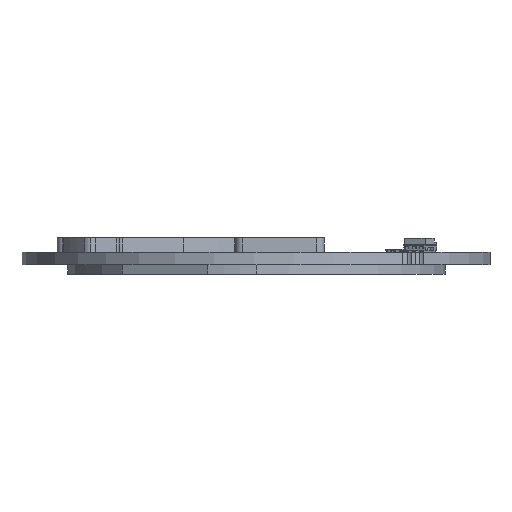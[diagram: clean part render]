
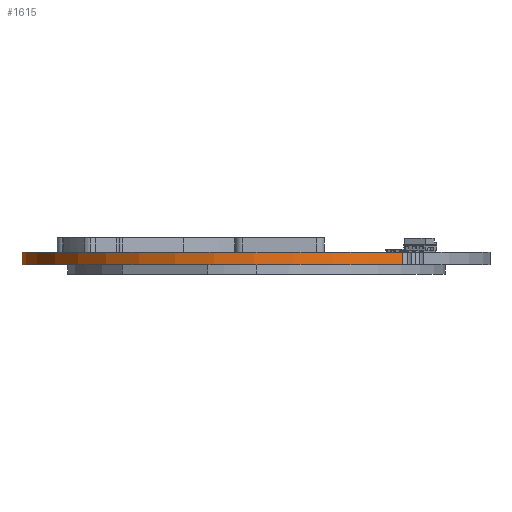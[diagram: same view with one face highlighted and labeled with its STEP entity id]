
A CAD part, left-side view. The second image highlights one B-rep face of the part: STEP entity #1615.
In plain terms, the highlighted cylindrical face has radius 31 mm (diameter 62 mm), a partial arc.
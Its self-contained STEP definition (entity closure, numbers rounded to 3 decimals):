
#1615 = ADVANCED_FACE ( 'NONE', ( #24313 ), #39784, .T. ) ;
#2086 = AXIS2_PLACEMENT_3D ( 'NONE', #21778, #22820, #28423 ) ;
#3016 = DIRECTION ( 'NONE',  ( 0., 0., 1. ) ) ;
#3789 = VERTEX_POINT ( 'NONE', #50698 ) ;
#7148 = LINE ( 'NONE', #40398, #20664 ) ;
#8273 = CARTESIAN_POINT ( 'NONE',  ( 25.999, -25.999, -1.65 ) ) ;
#9864 = EDGE_CURVE ( 'NONE', #55540, #61689, #50344, .T. ) ;
#11940 = ORIENTED_EDGE ( 'NONE', *, *, #19357, .F. ) ;
#13032 = AXIS2_PLACEMENT_3D ( 'NONE', #8273, #50217, #13499 ) ;
#13499 = DIRECTION ( 'NONE',  ( 1., 0., 0. ) ) ;
#17369 = VERTEX_POINT ( 'NONE', #49500 ) ;
#19357 = EDGE_CURVE ( 'NONE', #3789, #55540, #7148, .T. ) ;
#19841 = CIRCLE ( 'NONE', #2086, 31. ) ;
#20664 = VECTOR ( 'NONE', #3016, 1000. ) ;
#20916 = CARTESIAN_POINT ( 'NONE',  ( 1.767, -45.333, -1.65 ) ) ;
#21778 = CARTESIAN_POINT ( 'NONE',  ( 25.999, -25.999, -1.65 ) ) ;
#22820 = DIRECTION ( 'NONE',  ( 0., 0., 1. ) ) ;
#24313 = FACE_OUTER_BOUND ( 'NONE', #24518, .T. ) ;
#24518 = EDGE_LOOP ( 'NONE', ( #51205, #53804, #34497, #11940 ) ) ;
#25936 = CARTESIAN_POINT ( 'NONE',  ( 25.999, -25.999, 0. ) ) ;
#26499 = LINE ( 'NONE', #20916, #66599 ) ;
#28423 = DIRECTION ( 'NONE',  ( 1., 0., 0. ) ) ;
#31775 = DIRECTION ( 'NONE',  ( 0., 0., 1. ) ) ;
#31895 = DIRECTION ( 'NONE',  ( 0., 0., 1. ) ) ;
#34497 = ORIENTED_EDGE ( 'NONE', *, *, #9864, .F. ) ;
#39784 = CYLINDRICAL_SURFACE ( 'NONE', #13032, 31. ) ;
#40398 = CARTESIAN_POINT ( 'NONE',  ( 30.626, 4.653, -1.65 ) ) ;
#41368 = EDGE_CURVE ( 'NONE', #17369, #61689, #26499, .T. ) ;
#44268 = CARTESIAN_POINT ( 'NONE',  ( 1.767, -45.333, 0. ) ) ;
#45765 = EDGE_CURVE ( 'NONE', #3789, #17369, #19841, .T. ) ;
#46466 = CARTESIAN_POINT ( 'NONE',  ( 30.626, 4.653, 0. ) ) ;
#49500 = CARTESIAN_POINT ( 'NONE',  ( 1.767, -45.333, -1.65 ) ) ;
#50217 = DIRECTION ( 'NONE',  ( 0., 0., -1. ) ) ;
#50344 = CIRCLE ( 'NONE', #65940, 31. ) ;
#50698 = CARTESIAN_POINT ( 'NONE',  ( 30.626, 4.653, -1.65 ) ) ;
#51205 = ORIENTED_EDGE ( 'NONE', *, *, #45765, .T. ) ;
#53804 = ORIENTED_EDGE ( 'NONE', *, *, #41368, .T. ) ;
#55540 = VERTEX_POINT ( 'NONE', #46466 ) ;
#58441 = DIRECTION ( 'NONE',  ( 1., 0., 0. ) ) ;
#61689 = VERTEX_POINT ( 'NONE', #44268 ) ;
#65940 = AXIS2_PLACEMENT_3D ( 'NONE', #25936, #31895, #58441 ) ;
#66599 = VECTOR ( 'NONE', #31775, 1000. ) ;
